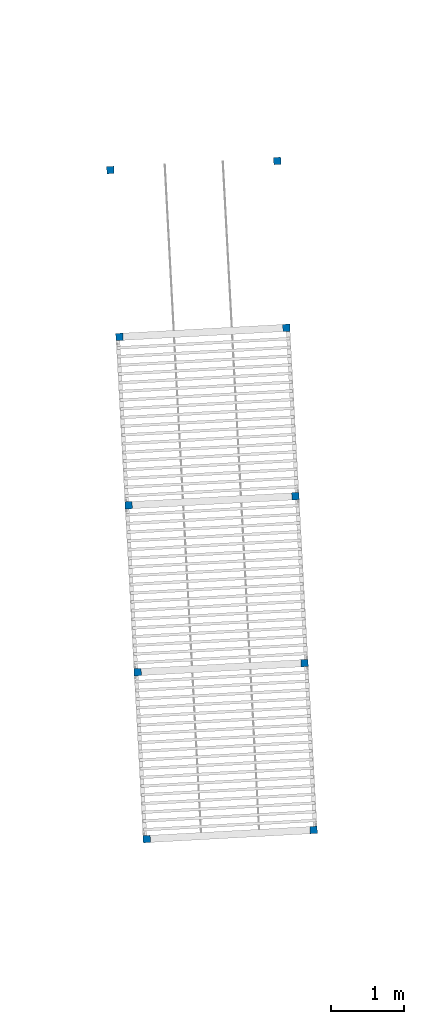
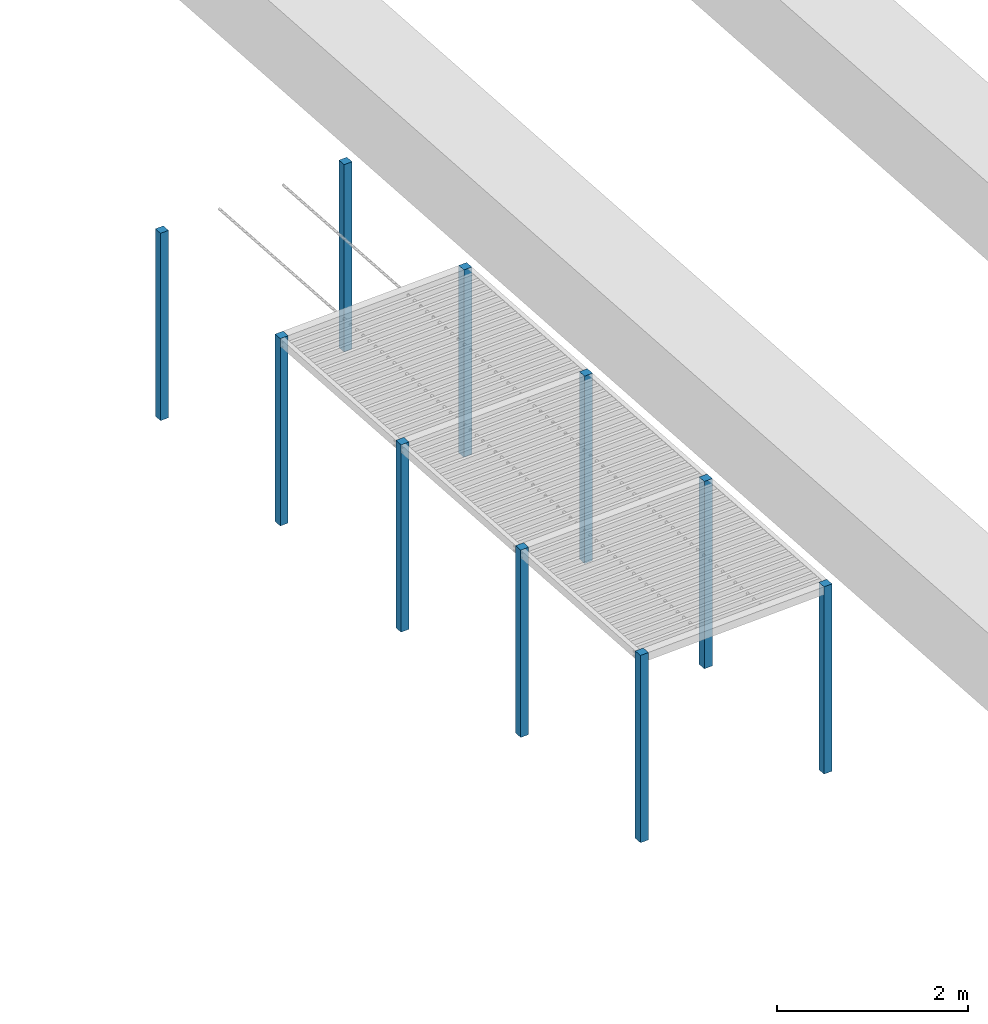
# One storey, part 1 of 438: 10 columns.
"""IFC2X3 building model written with IfcOpenShell, lengths in millimetres."""

from ifc_helpers import new_model, entity, si_unit, converted_unit, derived_unit, direction, frame, origin, origin_2d_with_axis, place, context, subcontext, project, spatial, rectangle, extrude, source, transform, mapped, material, type_object, type_shapes, element, save


model = new_model("IFC2X3")

# Units and contexts
model_context = context("Model", 3, precision=0.01, world=origin(), true_north=direction((6.123031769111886e-17, 1.0)))
body_context = subcontext(model_context, "Body", "Model", "MODEL_VIEW")
ifc_project = project(units=[si_unit("LENGTHUNIT", "METRE", prefix="MILLI"), si_unit("AREAUNIT", "SQUARE_METRE"), si_unit("VOLUMEUNIT", "CUBIC_METRE"), converted_unit("PLANEANGLEUNIT", "DEGREE", entity("IfcRatioMeasure", 0.017453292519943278), si_unit("PLANEANGLEUNIT", "RADIAN"), dimensions=[0, 0, 0, 0, 0, 0, 0]), si_unit("MASSUNIT", "GRAM", prefix="KILO"), derived_unit("MASSDENSITYUNIT", [(si_unit("MASSUNIT", "GRAM", prefix="KILO"), 1), (si_unit("LENGTHUNIT", "METRE"), -3)]), derived_unit("MOMENTOFINERTIAUNIT", [(si_unit("LENGTHUNIT", "METRE"), 4)]), si_unit("TIMEUNIT", "SECOND"), si_unit("FREQUENCYUNIT", "HERTZ"), si_unit("THERMODYNAMICTEMPERATUREUNIT", "DEGREE_CELSIUS"), derived_unit("THERMALTRANSMITTANCEUNIT", [(si_unit("MASSUNIT", "GRAM", prefix="KILO"), 1), (si_unit("THERMODYNAMICTEMPERATUREUNIT", "KELVIN"), -1), (si_unit("TIMEUNIT", "SECOND"), -3)]), derived_unit("THERMALCONDUCTANCEUNIT", [(si_unit("MASSUNIT", "GRAM", prefix="KILO"), 1), (si_unit("LENGTHUNIT", "METRE"), 1), (si_unit("THERMODYNAMICTEMPERATUREUNIT", "KELVIN"), -1), (si_unit("TIMEUNIT", "SECOND"), -3)]), derived_unit("VOLUMETRICFLOWRATEUNIT", [(si_unit("LENGTHUNIT", "METRE"), 3), (si_unit("TIMEUNIT", "SECOND"), -1)]), derived_unit("MASSFLOWRATEUNIT", [(si_unit("MASSUNIT", "GRAM", prefix="KILO"), 1), (si_unit("TIMEUNIT", "SECOND"), -1)]), derived_unit("ROTATIONALFREQUENCYUNIT", [(si_unit("TIMEUNIT", "SECOND"), -1)]), si_unit("ELECTRICCURRENTUNIT", "AMPERE"), si_unit("ELECTRICVOLTAGEUNIT", "VOLT"), si_unit("POWERUNIT", "WATT"), converted_unit("FORCEUNIT", "KIP", entity("IfcRatioMeasure", 2.088543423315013e-05), si_unit("FORCEUNIT", "NEWTON"), dimensions=[1, 1, -2, 0, 0, 0, 0]), si_unit("ILLUMINANCEUNIT", "LUX"), si_unit("LUMINOUSFLUXUNIT", "LUMEN"), si_unit("LUMINOUSINTENSITYUNIT", "CANDELA"), derived_unit("USERDEFINED", [(si_unit("MASSUNIT", "GRAM", prefix="KILO"), -1), (si_unit("LENGTHUNIT", "METRE"), -2), (si_unit("TIMEUNIT", "SECOND"), 3), (si_unit("LUMINOUSFLUXUNIT", "LUMEN"), 1)]), derived_unit("USERDEFINED", [(si_unit("MASSUNIT", "GRAM", prefix="KILO"), 1), (si_unit("LENGTHUNIT", "METRE"), 3), (si_unit("TIMEUNIT", "SECOND"), -3), (si_unit("ELECTRICCURRENTUNIT", "AMPERE"), -2)]), derived_unit("USERDEFINED", [(si_unit("LENGTHUNIT", "METRE"), 2), (si_unit("TIMEUNIT", "SECOND"), -2)]), derived_unit("SOUNDPOWERUNIT", [(si_unit("MASSUNIT", "GRAM", prefix="KILO"), 1), (si_unit("LENGTHUNIT", "METRE"), 2), (si_unit("TIMEUNIT", "SECOND"), -3)]), derived_unit("SOUNDPRESSUREUNIT", [(si_unit("MASSUNIT", "GRAM", prefix="KILO"), 1), (si_unit("LENGTHUNIT", "METRE"), -1), (si_unit("TIMEUNIT", "SECOND"), -2)]), derived_unit("LINEARVELOCITYUNIT", [(si_unit("LENGTHUNIT", "METRE"), 1), (si_unit("TIMEUNIT", "SECOND"), -1)]), si_unit("PRESSUREUNIT", "PASCAL"), derived_unit("USERDEFINED", [(si_unit("LENGTHUNIT", "METRE"), -2), (si_unit("MASSUNIT", "GRAM", prefix="KILO"), 1), (si_unit("TIMEUNIT", "SECOND"), -2)]), derived_unit("LINEARFORCEUNIT", [(si_unit("MASSUNIT", "GRAM", prefix="KILO"), 1), (si_unit("LENGTHUNIT", "METRE"), 1), (si_unit("TIMEUNIT", "SECOND"), -2), (si_unit("LENGTHUNIT", "METRE"), -1)]), derived_unit("PLANARFORCEUNIT", [(si_unit("MASSUNIT", "GRAM", prefix="KILO"), 1), (si_unit("LENGTHUNIT", "METRE"), 1), (si_unit("TIMEUNIT", "SECOND"), -2), (si_unit("LENGTHUNIT", "METRE"), -2)]), derived_unit("SPECIFICHEATCAPACITYUNIT", [(si_unit("LENGTHUNIT", "METRE"), 2), (si_unit("TIMEUNIT", "SECOND"), -2), (si_unit("THERMODYNAMICTEMPERATUREUNIT", "KELVIN"), -1)]), derived_unit("VAPORPERMEABILITYUNIT", [(si_unit("TIMEUNIT", "SECOND"), 1), (si_unit("LENGTHUNIT", "METRE"), -1)]), derived_unit("DYNAMICVISCOSITYUNIT", [(si_unit("MASSUNIT", "GRAM", prefix="KILO"), 1), (si_unit("LENGTHUNIT", "METRE"), -1), (si_unit("TIMEUNIT", "SECOND"), -1)]), derived_unit("THERMALEXPANSIONCOEFFICIENTUNIT", [(si_unit("THERMODYNAMICTEMPERATUREUNIT", "KELVIN"), -1)])], contexts=[model_context])

# Site, building, storey
site_placement = place(None, frame((0.0, 0.0, 0.0), z_axis=(0.0, 0.0, 1.0), x_axis=(0.8191520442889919, 0.5735764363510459, 0.0)))
site = spatial("IfcSite", under=ifc_project, at=site_placement, Name="Default", CompositionType="ELEMENT")
building_placement = place(site_placement, origin())
building = spatial("IfcBuilding", under=site, at=building_placement, CompositionType="ELEMENT")
storey_placement = place(building_placement, origin())
storey = spatial("IfcBuildingStorey", under=building, at=storey_placement, Name="PLAN", CompositionType="ELEMENT", Elevation=0.0)

# Columns
ifc_material = material(Name="Paint-02.1")
column_type = type_object("IfcColumnType", Name="Col-036 342654:Col-036 342654", PredefinedType="COLUMN", material=ifc_material)
shared_shape = source(origin(), body_context, "Body", "SweptSolid", [
    extrude(rectangle(XDim=100.0, YDim=100.0, at=origin_2d_with_axis()), frame((0.0, 0.0, -2000.0), z_axis=(0.0, 0.0, 1.0), x_axis=(0.0, -1.0, 0.0)), (0.0, 0.0, 1.0), 2400.0),
])
type_shapes(column_type, [shared_shape])
for number, where, z_axis, x_axis, name in (
    (1, (-18834.73691323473, 91720.65050880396, 0.0), (0.0, 0.0, 1.0), (0.5283279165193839, 0.8490404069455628, 0.0), "Col-036"),
    (2, (-20537.97315957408, 84630.13668474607, 0.0), (0.0, 0.0, 1.0), (0.5283279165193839, 0.8490404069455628, 0.0), "Col-036"),
    (3, (-15666.78976926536, 92458.28923678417, 0.0), (0.0, 0.0, 1.0), (0.5283279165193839, 0.8490404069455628, 0.0), "Col-036"),
    (4, (-22490.76609554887, 85845.29089274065, 0.0), (0.0, 0.0, 1.0), (0.5283279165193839, 0.8490404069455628, 0.0), "Col-036"),
    (5, (-20060.457679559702, 89750.87676469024, 0.0), (0.0, 0.0, 1.0), (0.5283279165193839, 0.8490404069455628, 0.0), "Col-036"),
    (6, (-18107.66474358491, 88535.72255669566, 0.0), (0.0, 0.0, 1.0), (0.5283279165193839, 0.8490404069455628, 0.0), "Col-036"),
    (7, (-17619.58270524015, 93673.44344477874, 0.0), (0.0, 0.0, 1.0), (0.5283279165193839, 0.8490404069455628, 0.0), "Col-036"),
    (8, (-19322.81895157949, 86582.92962072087, 0.0), (0.0, 0.0, 1.0), (0.5283279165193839, 0.8490404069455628, 0.0), "Col-036"),
    (9, (-16881.94397725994, 90505.49630080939, 0.0), (0.0, 0.0, 1.0), (0.5283279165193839, 0.8490404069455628, 0.0), "Col-036"),
    (10, (-21275.61188755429, 87798.08382871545, 0.0), (0.0, 0.0, 1.0), (0.5283279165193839, 0.8490404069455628, 0.0), "Col-036"),
):
    element("IfcColumn", number, at=place(storey_placement, frame(where, z_axis=z_axis, x_axis=x_axis)), inside=storey, type_object=column_type, material=ifc_material, Name=name, ObjectType="Col-036 342654:Col-036 342654", context=body_context, shape_type="MappedRepresentation", body=[
        mapped(shared_shape, transform((0.0, 0.0, 0.0), scale=1.0)),
    ])

save(model, "model.ifc")
